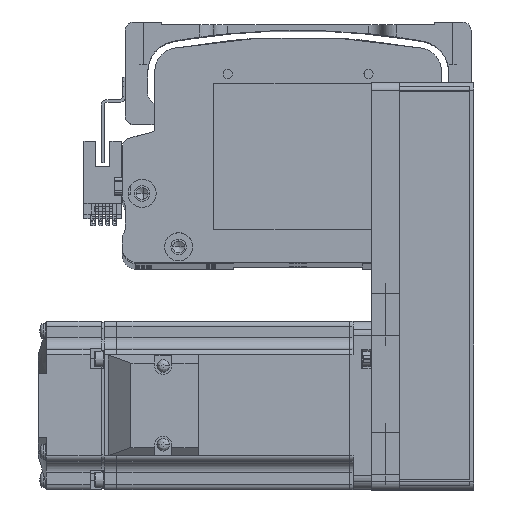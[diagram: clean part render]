
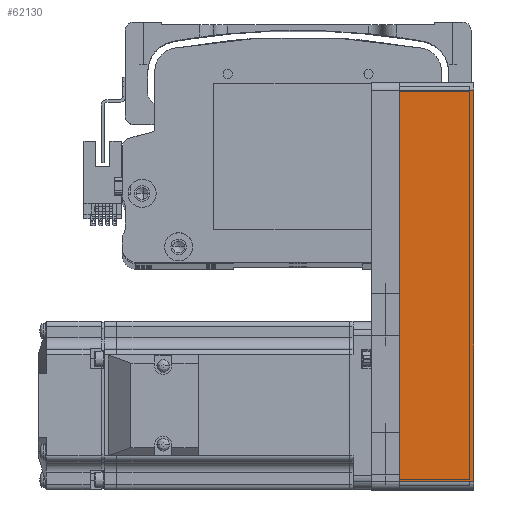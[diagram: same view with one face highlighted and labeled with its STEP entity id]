
A CAD part, top view. The second image highlights one B-rep face of the part: STEP entity #62130.
In plain terms, the highlighted planar face has unit normal (0, 0, 1) as drawn and (0, -1, 0) by its records, which use the part's own axes.
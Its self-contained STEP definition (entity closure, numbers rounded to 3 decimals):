
#307 = DIRECTION ( 'NONE',  ( 0., 0., 1. ) ) ;
#1316 = VECTOR ( 'NONE', #16886, 1000. ) ;
#4376 = VERTEX_POINT ( 'NONE', #6705 ) ;
#6705 = CARTESIAN_POINT ( 'NONE',  ( 69.5, -30., 26.5 ) ) ;
#7244 = VERTEX_POINT ( 'NONE', #27388 ) ;
#9322 = CARTESIAN_POINT ( 'NONE',  ( 72.5, -30., 0. ) ) ;
#9410 = VERTEX_POINT ( 'NONE', #41073 ) ;
#9586 = ORIENTED_EDGE ( 'NONE', *, *, #46585, .T. ) ;
#13862 = VERTEX_POINT ( 'NONE', #64355 ) ;
#16886 = DIRECTION ( 'NONE',  ( 1., 0., 0. ) ) ;
#19995 = ORIENTED_EDGE ( 'NONE', *, *, #72385, .T. ) ;
#20270 = ORIENTED_EDGE ( 'NONE', *, *, #38118, .T. ) ;
#21291 = CARTESIAN_POINT ( 'NONE',  ( 72.5, -30., 26.5 ) ) ;
#24071 = LINE ( 'NONE', #9322, #56896 ) ;
#27388 = CARTESIAN_POINT ( 'NONE',  ( -69.5, -30., 0. ) ) ;
#27918 = DIRECTION ( 'NONE',  ( -1., 0., 0. ) ) ;
#32277 = LINE ( 'NONE', #46204, #47632 ) ;
#37822 = VECTOR ( 'NONE', #51427, 1000. ) ;
#38118 = EDGE_CURVE ( 'NONE', #7244, #13862, #24071, .T. ) ;
#38815 = FACE_OUTER_BOUND ( 'NONE', #75482, .T. ) ;
#41073 = CARTESIAN_POINT ( 'NONE',  ( -69.5, -30., 26.5 ) ) ;
#46204 = CARTESIAN_POINT ( 'NONE',  ( 69.5, -30., 26.5 ) ) ;
#46585 = EDGE_CURVE ( 'NONE', #9410, #7244, #55197, .T. ) ;
#47632 = VECTOR ( 'NONE', #307, 1000. ) ;
#48681 = DIRECTION ( 'NONE',  ( 1., 0., 0. ) ) ;
#49715 = ORIENTED_EDGE ( 'NONE', *, *, #55118, .F. ) ;
#51427 = DIRECTION ( 'NONE',  ( 0., 0., -1. ) ) ;
#55118 = EDGE_CURVE ( 'NONE', #9410, #4376, #84436, .T. ) ;
#55197 = LINE ( 'NONE', #64281, #37822 ) ;
#55880 = AXIS2_PLACEMENT_3D ( 'NONE', #21291, #67123, #27918 ) ;
#56896 = VECTOR ( 'NONE', #48681, 1000. ) ;
#62130 = ADVANCED_FACE ( 'NONE', ( #38815 ), #80036, .F. ) ;
#64281 = CARTESIAN_POINT ( 'NONE',  ( -69.5, -30., 26.5 ) ) ;
#64355 = CARTESIAN_POINT ( 'NONE',  ( 69.5, -30., 0. ) ) ;
#67123 = DIRECTION ( 'NONE',  ( 0., 1., 0. ) ) ;
#72385 = EDGE_CURVE ( 'NONE', #13862, #4376, #32277, .T. ) ;
#75482 = EDGE_LOOP ( 'NONE', ( #20270, #19995, #49715, #9586 ) ) ;
#75656 = CARTESIAN_POINT ( 'NONE',  ( 72.5, -30., 26.5 ) ) ;
#80036 = PLANE ( 'NONE',  #55880 ) ;
#84436 = LINE ( 'NONE', #75656, #1316 ) ;
